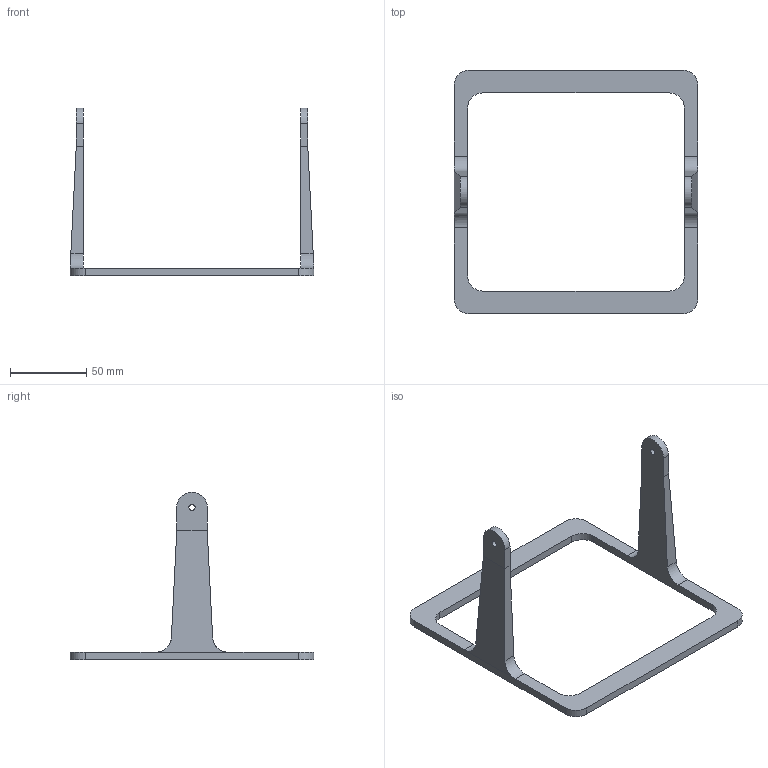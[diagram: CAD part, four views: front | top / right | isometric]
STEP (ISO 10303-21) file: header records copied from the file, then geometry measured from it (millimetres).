
FILE_DESCRIPTION(('FreeCAD Model'),'2;1');
FILE_NAME( '2021-01-24T16:39:58',('Author'),(''), 'Open CASCADE STEP processor 7.3','FreeCAD','Unknown');
FILE_SCHEMA(('AUTOMOTIVE_DESIGN { 1 0 10303 214 1 1 1 1 }'));
Length unit declared in the file: millimetre
Products named in the file (1): Staender
Bounding box: 160 x 160 x 110 mm (x, y, z)
Volume: 66604.4 mm3; surface area: 31759.5 mm2
Topology: 1 solids, 1 shells, 39 faces, 108 edges, 70 vertices
Faces by surface type: plane 23, cylinder 16
Full cylindrical faces by diameter (mm): 4 x2
Entity records: 2825 total; most frequent: CARTESIAN_POINT 640, DIRECTION 414, LINE 250, VECTOR 250, ORIENTED_EDGE 216, PCURVE 216, DEFINITIONAL_REPRESENTATION 216, EDGE_CURVE 108
